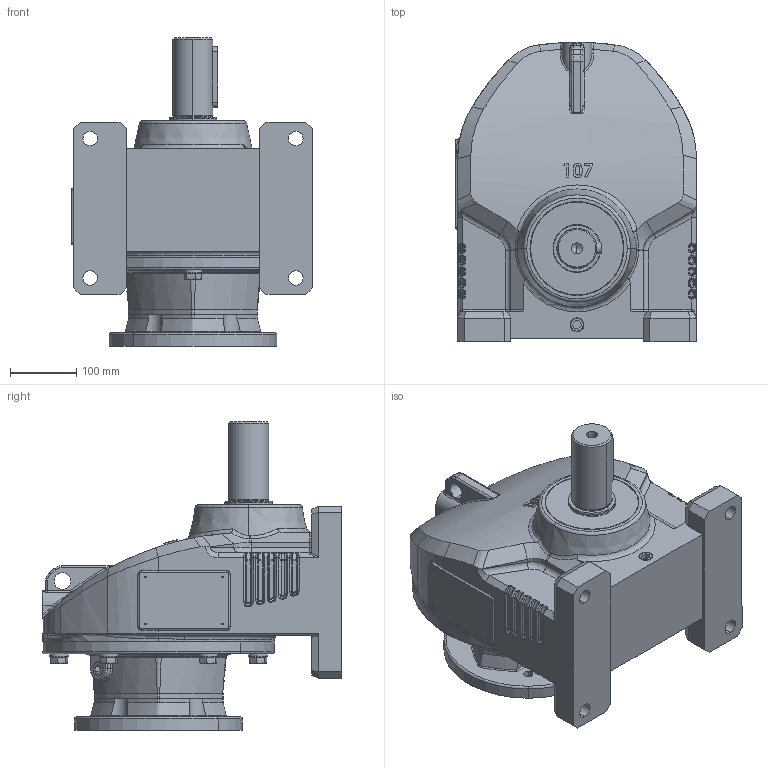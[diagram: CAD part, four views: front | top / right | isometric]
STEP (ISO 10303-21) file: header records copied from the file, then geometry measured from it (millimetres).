
FILE_DESCRIPTION (( 'STEP AP203' ), '1' );
FILE_NAME ('RX107HF-254TC.STEP', '2015-03-16T05:57:10', ( 'user' ), ( '' ), 'SwSTEP 2.0', 'SolidWorks 2012', '' );
FILE_SCHEMA (( 'CONFIG_CONTROL_DESIGN' ));
Length unit declared in the file: millimetre
Products named in the file (27): RX107HF-254TC; JSPC060072005; PKD5_8092; PCA060_JIS B 2804 Shaft use 60; PBA6312_SKF - 6312 - 10,DE,NC,10_68; 107法蘭入力組合254T_28; PBA6213_SKF - 6213 - 14,DE,NC,14_68; PBA6212_SKF - 6212 - 14,DE,NC,14_68; PWS16_JIS B 1251 No.2 16; PTBA16050_JIS B 1180 Continuous thread hexagon head bolt A M16 x 45 --N; P115_JKGA2820R; PCA028_JIS B 2804 Shaft use 28; PKD0606025; PSS065090121; PTAA14045; KFGG254T; KNGH254Txx_KNGH254T28; JHGA10715_KHGA10715; JKGB13798L_JKGB13798L; PJB04; PSS072140121; PCB140; PKD1811030S; PCA065_JIS B 2804 Shaft use 65; PBA6313_SKF - 6313 - 10,DE,NC,10_68; KEGX107; JCHX107
Assembly tree (43 placements, depth 3):
  RX107HF-254TC
    JCHX107
    KEGX107
    PBA6313_SKF - 6313 - 10,DE,NC,10_68
    PCA065_JIS B 2804 Shaft use 65
    PKD1811030S
    PCB140
    PSS072140121
    PJB04  x4
    JKGB13798L_JKGB13798L
    107法蘭入力組合254T_28
      JHGA10715_KHGA10715
      KNGH254Txx_KNGH254T28
      KFGG254T
      PTAA14045  x4
      PSS065090121
      PKD0606025
      PCA028_JIS B 2804 Shaft use 28
      P115_JKGA2820R
      PTBA16050_JIS B 1180 Continuous thread hexagon head bolt A M16 x 45 --N  x6
      PWS16_JIS B 1251 No.2 16  x6
      PBA6212_SKF - 6212 - 14,DE,NC,14_68
      PBA6213_SKF - 6213 - 14,DE,NC,14_68
      PJB04
    PBA6312_SKF - 6312 - 10,DE,NC,10_68
    PCA060_JIS B 2804 Shaft use 60
    PKD5_8092
    JSPC060072005
Bounding box: 363 x 451 x 465 mm (x, y, z)
Volume: 12718302.7 mm3; surface area: 2107455.4 mm2
Topology: 42 solids, 42 shells, 2373 faces, 6364 edges, 3958 vertices
Faces by surface type: cylinder 687, plane 662, torus 389, bspline 269, cone 254, sphere 112
Entity records: 90528 total; most frequent: CARTESIAN_POINT 37612, ORIENTED_EDGE 11004, DIRECTION 9897, EDGE_CURVE 5502, AXIS2_PLACEMENT_3D 4105, VERTEX_POINT 3480, EDGE_LOOP 2274, CIRCLE 2255
